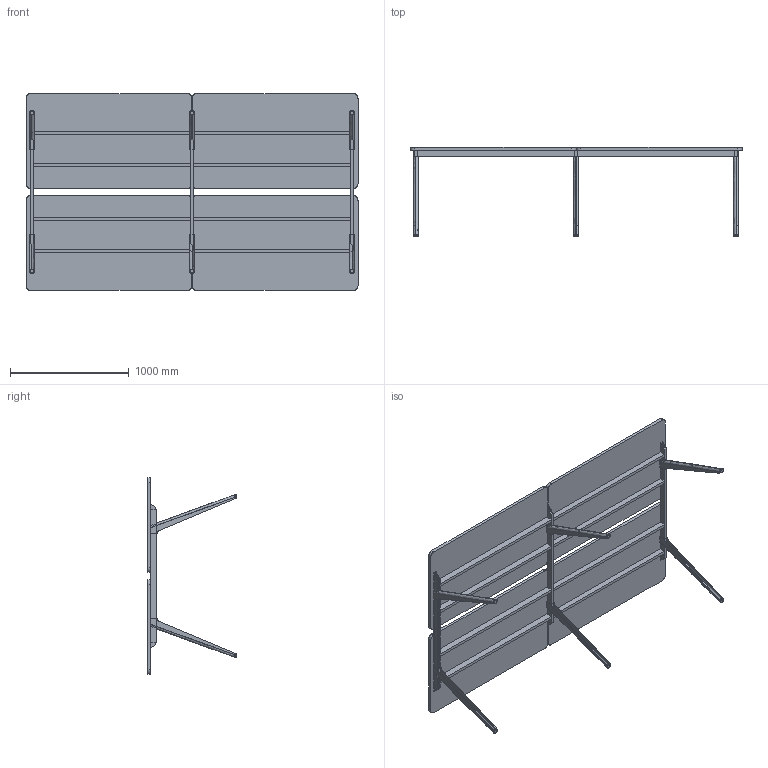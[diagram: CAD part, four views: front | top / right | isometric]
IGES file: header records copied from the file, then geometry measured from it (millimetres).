
Start section: SolidWorks IGES file using analytic representation for surfaces
Global section: file name: C:\Users\simone.cerana\OneDrive - Gruppo Tecno\Desktop\CHINA\DISEGNI DI SERIE\ASSIEMI LISTINO\HORIZON LISTINO\HO2816ST.IGS; native system: SolidWorks 2024; preprocessor: SolidWorks 2024; author: simone.cerana; date: 260508.123715; units: millimetre
Bounding box: 2801 x 749.83 x 1660 mm (x, y, z)
Surface area: 11990970.2 mm2 (no closed solid volume)
Topology: 0 solids, 0 shells, 454 faces, 5918 edges, 5918 vertices
Faces by surface type: bspline 312, revolution 142
